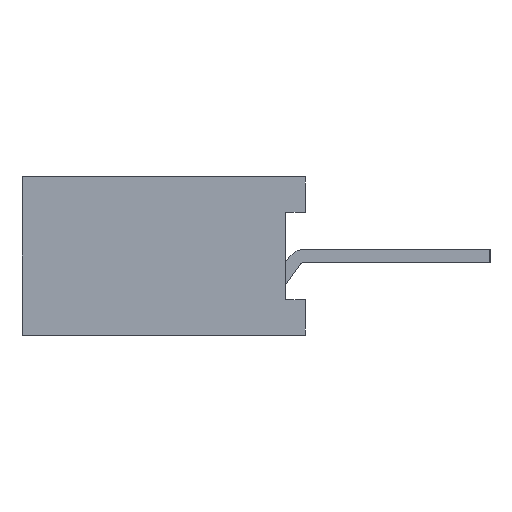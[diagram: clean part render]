
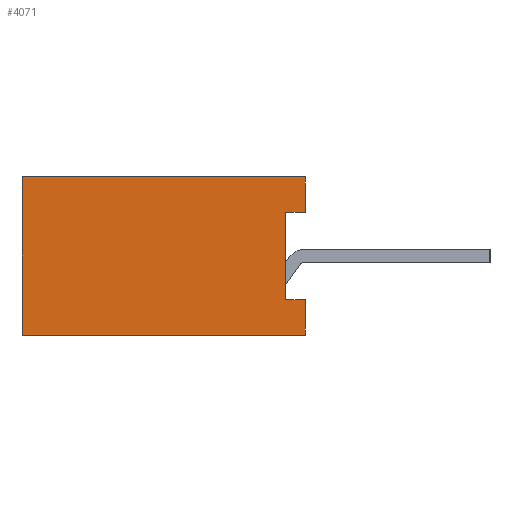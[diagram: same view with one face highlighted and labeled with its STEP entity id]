
A CAD part, left-side view. The second image highlights one B-rep face of the part: STEP entity #4071.
In plain terms, the highlighted planar face has unit normal (-1, 0, 0).
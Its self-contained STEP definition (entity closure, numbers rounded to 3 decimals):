
#123 = DIRECTION ( 'NONE',  ( 0., 0., -1. ) ) ;
#437 = EDGE_CURVE ( 'NONE', #1477, #7821, #3373, .T. ) ;
#666 = LINE ( 'NONE', #2098, #7402 ) ;
#773 = VECTOR ( 'NONE', #6119, 1000. ) ;
#884 = VECTOR ( 'NONE', #3592, 1000. ) ;
#910 = LINE ( 'NONE', #7130, #4317 ) ;
#932 = EDGE_CURVE ( 'NONE', #6917, #2653, #910, .T. ) ;
#933 = EDGE_CURVE ( 'NONE', #2481, #2679, #6442, .T. ) ;
#955 = CARTESIAN_POINT ( 'NONE',  ( -1.689, -2.136, -0.66 ) ) ;
#1477 = VERTEX_POINT ( 'NONE', #4357 ) ;
#1731 = FACE_OUTER_BOUND ( 'NONE', #5922, .T. ) ;
#2098 = CARTESIAN_POINT ( 'NONE',  ( -1.689, 1.864, 1.2 ) ) ;
#2377 = DIRECTION ( 'NONE',  ( 0., 0., -1. ) ) ;
#2458 = VECTOR ( 'NONE', #8485, 1000. ) ;
#2481 = VERTEX_POINT ( 'NONE', #4064 ) ;
#2619 = CARTESIAN_POINT ( 'NONE',  ( -1.689, -2.436, -0.66 ) ) ;
#2653 = VERTEX_POINT ( 'NONE', #955 ) ;
#2660 = VERTEX_POINT ( 'NONE', #3077 ) ;
#2679 = VERTEX_POINT ( 'NONE', #6400 ) ;
#3077 = CARTESIAN_POINT ( 'NONE',  ( -1.689, 1.864, 1.2 ) ) ;
#3373 = LINE ( 'NONE', #8105, #773 ) ;
#3411 = EDGE_CURVE ( 'NONE', #6917, #7821, #4482, .T. ) ;
#3592 = DIRECTION ( 'NONE',  ( 0., 0., 1. ) ) ;
#3755 = VERTEX_POINT ( 'NONE', #3820 ) ;
#3820 = CARTESIAN_POINT ( 'NONE',  ( -1.689, -2.436, 1.2 ) ) ;
#3991 = ORIENTED_EDGE ( 'NONE', *, *, #8299, .T. ) ;
#4010 = CARTESIAN_POINT ( 'NONE',  ( -1.689, 1.864, 1.2 ) ) ;
#4064 = CARTESIAN_POINT ( 'NONE',  ( -1.689, -2.136, 0.66 ) ) ;
#4071 = ADVANCED_FACE ( 'NONE', ( #1731 ), #4078, .F. ) ;
#4078 = PLANE ( 'NONE',  #8387 ) ;
#4129 = DIRECTION ( 'NONE',  ( 0., 1., 0. ) ) ;
#4181 = CARTESIAN_POINT ( 'NONE',  ( -1.689, -2.136, 0.66 ) ) ;
#4229 = ORIENTED_EDGE ( 'NONE', *, *, #4682, .F. ) ;
#4235 = LINE ( 'NONE', #8096, #5299 ) ;
#4317 = VECTOR ( 'NONE', #4375, 1000. ) ;
#4357 = CARTESIAN_POINT ( 'NONE',  ( -1.689, 1.864, -1.2 ) ) ;
#4375 = DIRECTION ( 'NONE',  ( 0., 1., 0. ) ) ;
#4482 = LINE ( 'NONE', #7797, #8797 ) ;
#4682 = EDGE_CURVE ( 'NONE', #3755, #2679, #4235, .T. ) ;
#5269 = ORIENTED_EDGE ( 'NONE', *, *, #933, .T. ) ;
#5299 = VECTOR ( 'NONE', #6780, 1000. ) ;
#5337 = ORIENTED_EDGE ( 'NONE', *, *, #7617, .T. ) ;
#5474 = LINE ( 'NONE', #4181, #884 ) ;
#5922 = EDGE_LOOP ( 'NONE', ( #3991, #5269, #4229, #7010, #5337, #7888, #7420, #6300 ) ) ;
#5971 = VECTOR ( 'NONE', #8796, 1000. ) ;
#6111 = LINE ( 'NONE', #4010, #5971 ) ;
#6119 = DIRECTION ( 'NONE',  ( 0., -1., 0. ) ) ;
#6300 = ORIENTED_EDGE ( 'NONE', *, *, #932, .T. ) ;
#6400 = CARTESIAN_POINT ( 'NONE',  ( -1.689, -2.436, 0.66 ) ) ;
#6442 = LINE ( 'NONE', #8452, #2458 ) ;
#6547 = EDGE_CURVE ( 'NONE', #2660, #3755, #6111, .T. ) ;
#6780 = DIRECTION ( 'NONE',  ( 0., 0., -1. ) ) ;
#6917 = VERTEX_POINT ( 'NONE', #2619 ) ;
#7010 = ORIENTED_EDGE ( 'NONE', *, *, #6547, .F. ) ;
#7130 = CARTESIAN_POINT ( 'NONE',  ( -1.689, -2.436, -0.66 ) ) ;
#7373 = DIRECTION ( 'NONE',  ( 1., 0., 0. ) ) ;
#7402 = VECTOR ( 'NONE', #123, 1000. ) ;
#7420 = ORIENTED_EDGE ( 'NONE', *, *, #3411, .F. ) ;
#7617 = EDGE_CURVE ( 'NONE', #2660, #1477, #666, .T. ) ;
#7650 = CARTESIAN_POINT ( 'NONE',  ( -1.689, -2.436, -1.2 ) ) ;
#7797 = CARTESIAN_POINT ( 'NONE',  ( -1.689, -2.436, 1.2 ) ) ;
#7821 = VERTEX_POINT ( 'NONE', #7650 ) ;
#7888 = ORIENTED_EDGE ( 'NONE', *, *, #437, .T. ) ;
#8040 = CARTESIAN_POINT ( 'NONE',  ( -1.689, 1.864, 1.2 ) ) ;
#8096 = CARTESIAN_POINT ( 'NONE',  ( -1.689, -2.436, 1.2 ) ) ;
#8105 = CARTESIAN_POINT ( 'NONE',  ( -1.689, 1.864, -1.2 ) ) ;
#8299 = EDGE_CURVE ( 'NONE', #2653, #2481, #5474, .T. ) ;
#8387 = AXIS2_PLACEMENT_3D ( 'NONE', #8040, #7373, #4129 ) ;
#8452 = CARTESIAN_POINT ( 'NONE',  ( -1.689, -2.436, 0.66 ) ) ;
#8485 = DIRECTION ( 'NONE',  ( 0., -1., 0. ) ) ;
#8796 = DIRECTION ( 'NONE',  ( 0., -1., 0. ) ) ;
#8797 = VECTOR ( 'NONE', #2377, 1000. ) ;
